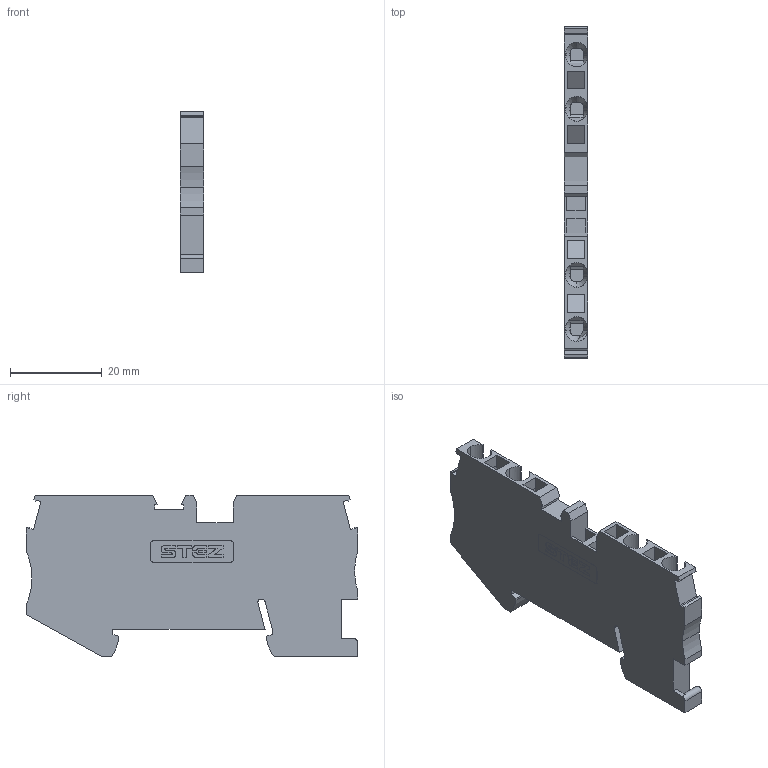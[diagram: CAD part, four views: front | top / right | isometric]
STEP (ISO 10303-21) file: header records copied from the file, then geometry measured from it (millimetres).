
FILE_DESCRIPTION(('TFLEX Exchange Step'),'2;1');
FILE_NAME('10000087_KH3_2,5-4-О.stp', '2023-10-02T13:49:34+03:00',('apanin'),('Unknown organisation'),'TFLEX Exchange 2023.0','T-FLEX CAD','Unknown authorisation');
FILE_SCHEMA( ('AUTOMOTIVE_DESIGN { 1 0 10303 214 1 1 1 1 }') );
Length unit declared in the file: millimetre
Products named in the file (1): Тело_1 - 1:1
Bounding box: 5.15 x 72.2 x 35.25 mm (x, y, z)
Volume: 9306.3 mm3; surface area: 7024.9 mm2
Topology: 1 solids, 1 shells, 418 faces, 1200 edges, 793 vertices
Faces by surface type: cylinder 205, plane 197, cone 16
Entity records: 14693 total; most frequent: CARTESIAN_POINT 3635, ORIENTED_EDGE 2396, DIRECTION 2281, EDGE_CURVE 1198, AXIS2_PLACEMENT_3D 820, VERTEX_POINT 793, VECTOR 641, LINE 641
